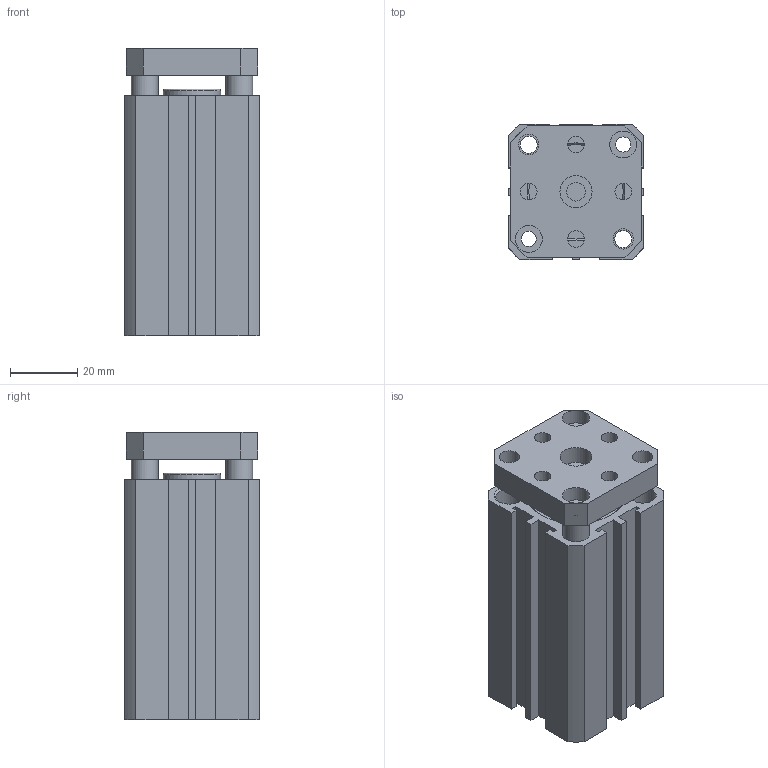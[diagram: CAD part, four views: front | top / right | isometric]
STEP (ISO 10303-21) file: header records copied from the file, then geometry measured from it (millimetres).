
FILE_DESCRIPTION((''),'2;1');
FILE_NAME('I:\3D電子目錄\氣缸\JTD\JTD\JTD25\JTD25x50.stp','2007-08-09T20:07:56',('Administrator'),(''),'Autodesk Inventor 11','Autodesk Inventor 11','');
FILE_SCHEMA(('AUTOMOTIVE_DESIGN { 1 0 10303 214 1 1 1 1 }'));
Length unit declared in the file: millimetre
Products named in the file (1): JTD25
Bounding box: 40 x 40 x 85.2 mm (x, y, z)
Volume: 99995.8 mm3; surface area: 31116.7 mm2
Topology: 1 solids, 1 shells, 133 faces, 311 edges, 205 vertices
Faces by surface type: plane 76, cylinder 30, bspline 19, cone 6, torus 2
Full cylindrical faces by diameter (mm): 1.5 x2, 5.1 x2, 6 x2, 6.039 x2, 6.5 x2, 8 x6, 17 x2, 28 x4, 29.4 x2
Entity records: 3853 total; most frequent: CARTESIAN_POINT 905, DIRECTION 586, ORIENTED_EDGE 524, EDGE_CURVE 262, EDGE_LOOP 228, AXIS2_PLACEMENT_3D 209, VERTEX_POINT 202, VECTOR 168
